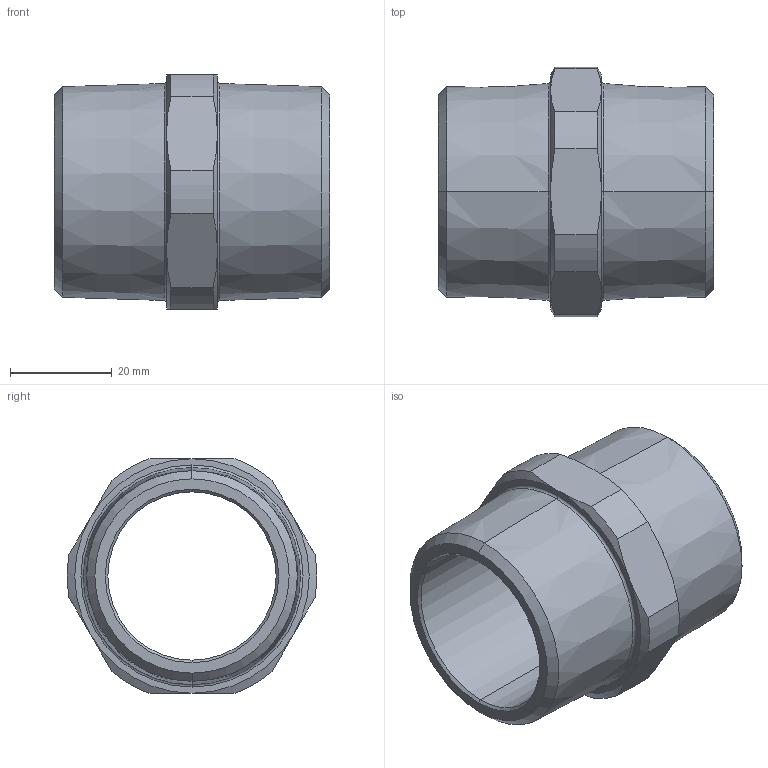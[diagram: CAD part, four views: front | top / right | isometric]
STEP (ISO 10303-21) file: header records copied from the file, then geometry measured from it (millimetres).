
FILE_DESCRIPTION (( 'STEP AP203' ), '1' );
FILE_NAME ('ﾍﾂﾍ4Nﾍ.STEP', '2019-06-05T12:28:18', ( '' ), ( '' ), 'SwSTEP 2.0', 'SolidWorks 2012', '' );
FILE_SCHEMA (( 'CONFIG_CONTROL_DESIGN' ));
Length unit declared in the file: millimetre
Products named in the file (1): ﾍﾂﾍ4Nﾍ
Bounding box: 54 x 48.92 x 46 mm (x, y, z)
Volume: 31048.3 mm3; surface area: 14619.1 mm2
Topology: 1 solids, 1 shells, 52 faces, 114 edges, 68 vertices
Faces by surface type: cone 24, cylinder 12, plane 12, torus 4
Entity records: 1611 total; most frequent: CARTESIAN_POINT 387, DIRECTION 256, ORIENTED_EDGE 228, EDGE_CURVE 114, AXIS2_PLACEMENT_3D 113, VERTEX_POINT 68, CIRCLE 60, EDGE_LOOP 58
